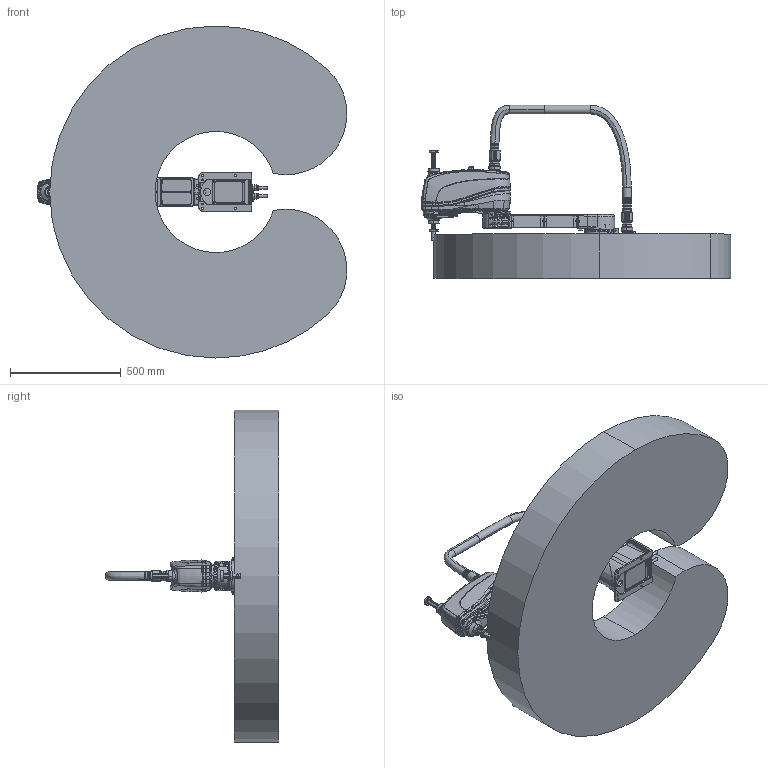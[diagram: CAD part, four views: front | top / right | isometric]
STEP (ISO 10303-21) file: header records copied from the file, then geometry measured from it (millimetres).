
FILE_DESCRIPTION (( 'STEP AP214' ), '1' );
FILE_NAME ('Rebel-S6 0.75_p00.STEP', '2016-11-10T09:27:34', ( '' ), ( '' ), 'SwSTEP 2.0', 'SolidWorks 2014', '' );
FILE_SCHEMA (( 'AUTOMOTIVE_DESIGN' ));
Length unit declared in the file: millimetre
Products named in the file (18): Operation Area Rebel-S6 0.75 ; Rebel-S6 0.75_p18; Rebel-S6 0.75_p17; Rebel-S6 0.75_p16; Rebel-S6 0.75_p15; Rebel-S6 0.75_p14; Rebel-S6 0.75_p13; Rebel-S6 0.75_p12; Rebel-S6 0.75_p10; Rebel-S6 0.75_p09; Rebel-S6 0.75_p08; Rebel-S6 0.75_p07; Rebel-S6 0.75_p05; Rebel-S6 0.75_p04; Rebel-S6 0.75_p03; Rebel-S6 0.75_p02; Rebel-S6 0.75_p01; Rebel-S6 0.75_p00
Assembly tree (21 placements, depth 2):
  Rebel-S6 0.75_p00
    Rebel-S6 0.75_p01
    Rebel-S6 0.75_p02
    Rebel-S6 0.75_p03
    Rebel-S6 0.75_p04
    Rebel-S6 0.75_p05  x2
    Rebel-S6 0.75_p07
    Rebel-S6 0.75_p08
    Rebel-S6 0.75_p09
    Rebel-S6 0.75_p10  x2
    Rebel-S6 0.75_p12
    Rebel-S6 0.75_p13
    Rebel-S6 0.75_p14
    Rebel-S6 0.75_p15
    Rebel-S6 0.75_p16  x2
    Rebel-S6 0.75_p17
    Rebel-S6 0.75_p18  x2
    Operation Area Rebel-S6 0.75 
Bounding box: 1399.71 x 782.5 x 1500 mm (x, y, z)
Volume: 276102765 mm3; surface area: 5790148 mm2
Topology: 23 solids, 23 shells, 3265 faces, 8291 edges, 5262 vertices
Faces by surface type: plane 1287, cylinder 928, bspline 585, cone 465
Entity records: 319315 total; most frequent: CARTESIAN_POINT 217683, ORIENTED_EDGE 15304, DIRECTION 11947, EDGE_CURVE 7652, VERTEX_POINT 4910, AXIS2_PLACEMENT_3D 4247, LINE 3453, VECTOR 3453
